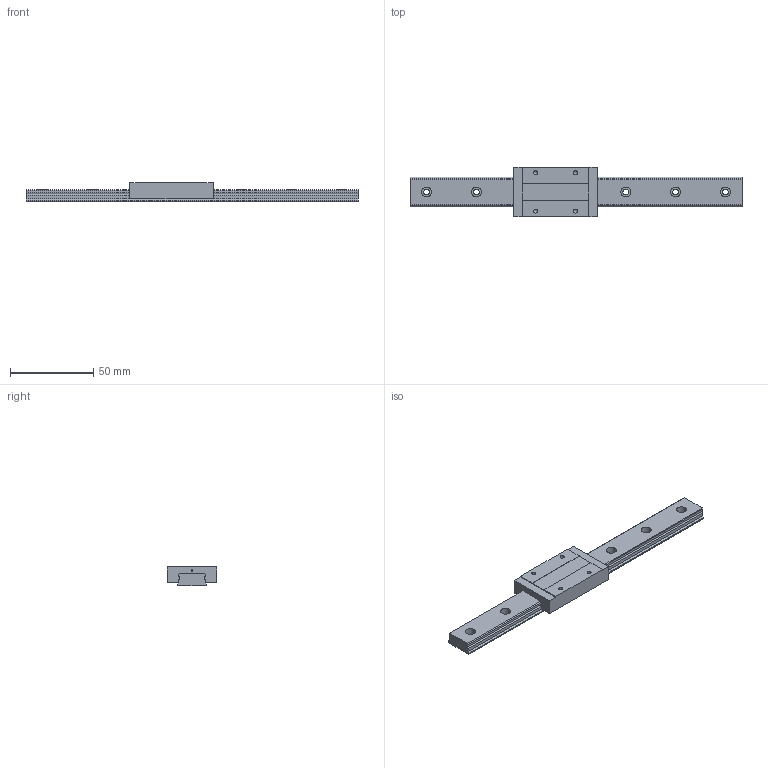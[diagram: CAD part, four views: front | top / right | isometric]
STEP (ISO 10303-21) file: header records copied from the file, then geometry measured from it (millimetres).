
FILE_DESCRIPTION((''),'2;1');
FILE_NAME('D:\製品 (図面)\カタログ用3D\リニアガイド関連\STEP形式\LGM-WL\LGM9WL.stp','2010-06-02T15:58:31',('Tsuchiya'),(''),'Autodesk Inventor 10','Autodesk Inventor 10','');
FILE_SCHEMA(('AUTOMOTIVE_DESIGN { 1 0 10303 214 1 1 1 1 }'));
Length unit declared in the file: millimetre
Products named in the file (3): LGM9WL; LGM9WL1; LGM9WL2
Assembly tree (2 placements, depth 2):
  LGM9WL
    LGM9WL1
    LGM9WL2
Bounding box: 200 x 30 x 12 mm (x, y, z)
Volume: 33763.7 mm3; surface area: 16213 mm2
Topology: 2 solids, 2 shells, 75 faces, 184 edges, 122 vertices
Faces by surface type: plane 39, bspline 27, cylinder 7, cone 2
Full cylindrical faces by diameter (mm): 1 x1, 2.459 x2
Entity records: 2387 total; most frequent: CARTESIAN_POINT 697, DIRECTION 308, ORIENTED_EDGE 308, EDGE_CURVE 154, EDGE_LOOP 122, VERTEX_POINT 116, VECTOR 106, LINE 106
